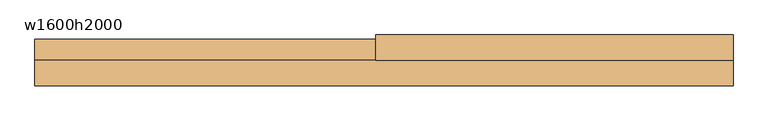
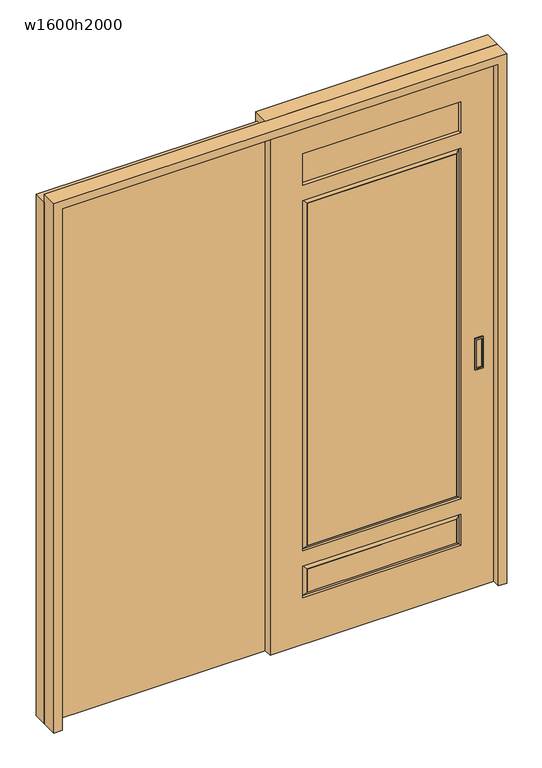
"""IFC4 building model written with IfcOpenShell, lengths in millimetres: door geometry, 片引戸CL2017 : w1600h2000."""

from ifc_helpers import new_model, si_unit, frame, origin, origin_with_axes, place, context, project, spatial, polyline, outline, extrude, faceted_brep, source, transform, mapped, element, save


def w1600h2000_4c3c234a(model_context):
    return source(origin(), model_context, "Body", "SolidModel", [
        faceted_brep([(755.0, 5.0, 960.0), (755.0, 5.0, 840.0), (725.0, 5.0, 840.0), (725.0, 5.0, 960.0), (730.0, 5.0, 955.0), (730.0, 5.0, 845.0), (750.0, 5.0, 845.0), (750.0, 5.0, 955.0), (755.0, -35.0, 960.0), (725.0, -35.0, 960.0), (725.0, -35.0, 840.0), (755.0, -35.0, 840.0), (730.0, -35.0, 845.0), (730.0, -35.0, 955.0), (750.0, -35.0, 955.0), (750.0, -35.0, 845.0), (730.0, 1.0, 955.0), (730.0, 1.0, 845.0), (730.0, -31.0, 845.0), (730.0, -31.0, 955.0), (750.0, 1.0, 955.0), (750.0, 1.0, 845.0), (750.0, -31.0, 845.0), (750.0, -31.0, 955.0)], [[[0, 1, 2, 3], [4, 5, 6, 7]], [[8, 9, 10, 11], [12, 13, 14, 15]], [[1, 0, 8, 11]], [[2, 1, 11, 10]], [[3, 2, 10, 9]], [[0, 3, 9, 8]], [[16, 17, 5, 4]], [[18, 19, 13, 12]], [[20, 7, 6, 21]], [[22, 15, 14, 23]], [[16, 4, 7, 20]], [[5, 17, 21, 6]], [[17, 16, 20, 21]], [[18, 12, 15, 22]], [[13, 19, 23, 14]], [[19, 18, 22, 23]]]),
        extrude(outline(polyline([(0.0, 795.0), (2010.0, 795.0), (2010.0, -20.0), (0.0, -20.0), (0.0, 795.0)]), holes=[polyline([(1770.0, 675.0), (1770.0, 100.0), (1890.0, 100.0), (1890.0, 675.0), (1770.0, 675.0)]), polyline([(300.0, 100.0), (300.0, 675.0), (180.0, 675.0), (180.0, 100.0), (300.0, 100.0)]), polyline([(360.0, 675.0), (360.0, 100.0), (1710.0, 100.0), (1710.0, 675.0), (360.0, 675.0)])]), frame((0.0, -30.0, 0.0), z_axis=(0.0, 1.0, 0.0), x_axis=(0.0, 0.0, 1.0)), (0.0, 0.0, 1.0), 30.0),
        extrude(outline(polyline([(675.0, -17.5), (100.0, -17.5), (100.0, -12.5), (675.0, -12.5), (675.0, -17.5)])), frame((0.0, 0.0, 1770.0), z_axis=(0.0, 0.0, 1.0), x_axis=(1.0, 0.0, 0.0)), (0.0, 0.0, 1.0), 120.0),
        extrude(outline(polyline([(660.0, -30.0), (115.0, -30.0), (115.0, 0.0), (660.0, 0.0), (660.0, -30.0)])), frame((0.0, 0.0, 195.0), z_axis=(0.0, 0.0, 1.0), x_axis=(1.0, 0.0, 0.0)), (0.0, 0.0, 1.0), 90.0),
        extrude(outline(polyline([(660.0, -30.0), (115.0, -30.0), (115.0, 0.0), (660.0, 0.0), (660.0, -30.0)])), frame((0.0, 0.0, 375.0), z_axis=(0.0, 0.0, 1.0), x_axis=(1.0, 0.0, 0.0)), (0.0, 0.0, 1.0), 1320.0),
        faceted_brep([(100.0, -20.0, 1710.0), (100.0, -10.0, 1710.0), (100.0, -10.0, 360.0), (100.0, -20.0, 360.0), (115.0, -30.0, 1695.0), (115.0, -30.0, 375.0), (115.0, 0.0, 1695.0), (115.0, 0.0, 375.0), (675.0, -10.0, 360.0), (675.0, -20.0, 360.0), (660.0, -30.0, 375.0), (660.0, 0.0, 375.0), (675.0, -10.0, 1710.0), (675.0, -20.0, 1710.0), (660.0, -30.0, 1695.0), (660.0, 0.0, 1695.0)], [[[0, 1, 2, 3]], [[4, 0, 3, 5]], [[6, 4, 5, 7]], [[1, 6, 7, 2]], [[3, 2, 8, 9]], [[5, 3, 9, 10]], [[7, 5, 10, 11]], [[2, 7, 11, 8]], [[9, 8, 12, 13]], [[10, 9, 13, 14]], [[11, 10, 14, 15]], [[8, 11, 15, 12]], [[13, 12, 1, 0]], [[14, 13, 0, 4]], [[15, 14, 4, 6]], [[12, 15, 6, 1]]]),
        faceted_brep([(115.0, 0.0, 195.0), (100.0, -10.0, 180.0), (100.0, -10.0, 300.0), (115.0, 0.0, 285.0), (115.0, -30.0, 195.0), (115.0, -30.0, 285.0), (100.0, -20.0, 180.0), (100.0, -20.0, 300.0), (675.0, -10.0, 300.0), (660.0, 0.0, 285.0), (660.0, -30.0, 285.0), (675.0, -20.0, 300.0), (675.0, -10.0, 180.0), (660.0, 0.0, 195.0), (660.0, -30.0, 195.0), (675.0, -20.0, 180.0)], [[[0, 1, 2, 3]], [[4, 0, 3, 5]], [[6, 4, 5, 7]], [[1, 6, 7, 2]], [[3, 2, 8, 9]], [[5, 3, 9, 10]], [[7, 5, 10, 11]], [[2, 7, 11, 8]], [[9, 8, 12, 13]], [[10, 9, 13, 14]], [[11, 10, 14, 15]], [[8, 11, 15, 12]], [[13, 12, 1, 0]], [[14, 13, 0, 4]], [[15, 14, 4, 6]], [[12, 15, 6, 1]]]),
        extrude(outline(polyline([(0.0, 795.0), (0.0, 825.0), (2040.0, 825.0), (2040.0, -20.0), (0.0, -20.0), (0.0, 10.0), (2010.0, 10.0), (2010.0, 795.0), (0.0, 795.0)])), frame((0.0, 0.0, 0.0), z_axis=(0.0, 1.0, 0.0), x_axis=(0.0, 0.0, 1.0)), (0.0, 0.0, 1.0), 60.0),
        extrude(outline(polyline([(0.0, 795.0), (0.0, 825.0), (2040.0, 825.0), (2040.0, -825.0), (0.0, -825.0), (0.0, -795.0), (2010.0, -795.0), (2010.0, 795.0), (0.0, 795.0)])), frame((0.0, -60.0, 0.0), z_axis=(0.0, 1.0, 0.0), x_axis=(0.0, 0.0, 1.0)), (0.0, 0.0, 1.0), 60.0),
        extrude(outline(polyline([(-20.0, 0.0), (-825.0, 0.0), (-825.0, 50.0), (-20.0, 50.0), (-20.0, 0.0)])), origin_with_axes(), (0.0, 0.0, 1.0), 2010.0),
    ])


if __name__ == "__main__":
    model = new_model("IFC4")
    model_context = context("Model", 3, world=origin())
    ifc_project = project(units=[si_unit("LENGTHUNIT", "METRE", prefix="MILLI")], contexts=[model_context])
    site = spatial("IfcSite", under=ifc_project)
    building = spatial("IfcBuilding", under=site)
    placement = place(None, origin())
    w1600h2000_shape = w1600h2000_4c3c234a(model_context)
    element("IfcDoor", 1, ObjectType="片引戸CL2017 : w1600h2000", at=placement, inside=building, context=model_context, shape_type="MappedRepresentation", body=[
        mapped(w1600h2000_shape, transform((0.0, 0.0, 0.0), x_axis=(1.0, 0.0, 0.0), y_axis=(0.0, 1.0, 0.0), z_axis=(0.0, 0.0, 1.0))),
    ])
    save(model, "model.ifc")
